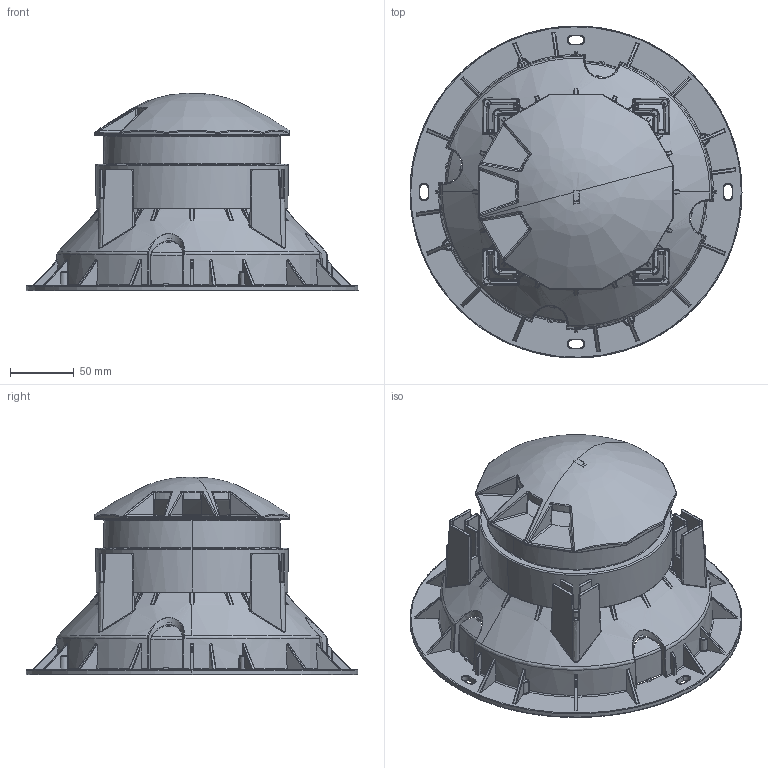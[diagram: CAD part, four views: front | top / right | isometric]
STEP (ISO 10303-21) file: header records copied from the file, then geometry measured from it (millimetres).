
FILE_DESCRIPTION(/* description */ (''),/* implementation_level */ '2;1');
FILE_NAME(/* name */ 'T415400_MEGARA 150 1 FASCIO',/* time_stamp */ '2018-02-06T12:13:49+01:00',/* author */ (''),/* organization */ (''),/* preprocessor_version */ 'ST-DEVELOPER v15',/* originating_system */ '',/* authorisation */ '');
FILE_SCHEMA (('CONFIG_CONTROL_DESIGN'));
Products named in the file (1): Document
Bounding box: 259.96 x 259.92 x 154.7 mm (x, y, z)
Volume: 583650 mm3; surface area: 255530.2 mm2
Topology: 3 solids, 11 shells, 1988 faces, 5301 edges, 3007 vertices
Faces by surface type: bspline 1611, plane 377
Entity records: 94865 total; most frequent: CARTESIAN_POINT 67299, ORIENTED_EDGE 9791, EDGE_CURVE 5174, VERTEX_POINT 3011, B_SPLINE_CURVE_WITH_KNOTS 2321, EDGE_LOOP 1993, ADVANCED_FACE 1981, FACE_OUTER_BOUND 1981
